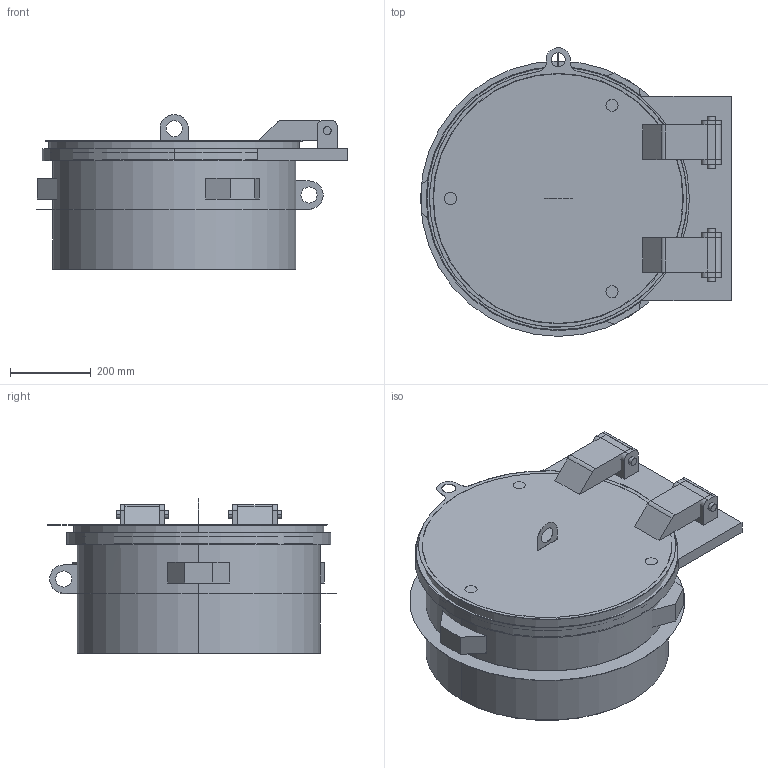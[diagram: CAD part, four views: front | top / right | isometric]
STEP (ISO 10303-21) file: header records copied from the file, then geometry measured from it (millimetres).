
FILE_DESCRIPTION((''),'2;1');
FILE_NAME('52471606','2025-10-30T08:25:42',('stat'),('HUBER SE'),'CREO PARAMETRIC BY PTC INC, 2022162','CREO PARAMETRIC BY PTC INC, 2022162','');
FILE_SCHEMA(('AUTOMOTIVE_DESIGN { 1 0 10303 214 1 1 1 1 }'));
Length unit declared in the file: millimetre
Products named in the file (1): 52471606
Bounding box: 772.5 x 717 x 385 mm (x, y, z)
Volume: 8148705 mm3; surface area: 2942355.7 mm2
Topology: 8 solids, 8 shells, 180 faces, 416 edges, 276 vertices
Faces by surface type: plane 110, cylinder 70
Entity records: 7191 total; most frequent: DIRECTION 930, CARTESIAN_POINT 874, ORIENTED_EDGE 832, PRESENTATION_STYLE_ASSIGNMENT 430, STYLED_ITEM 424, CURVE_STYLE 416, EDGE_CURVE 416, AXIS2_PLACEMENT_3D 334
